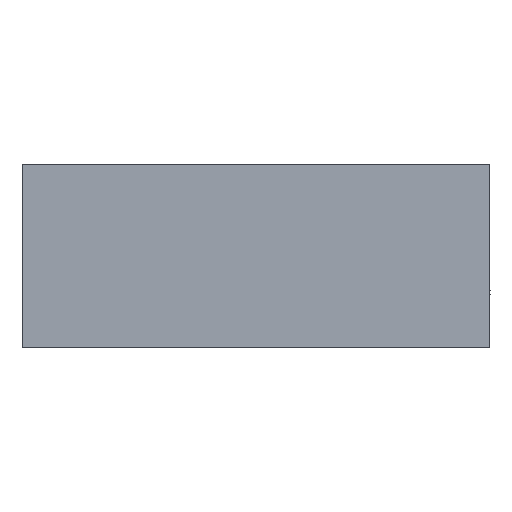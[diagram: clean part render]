
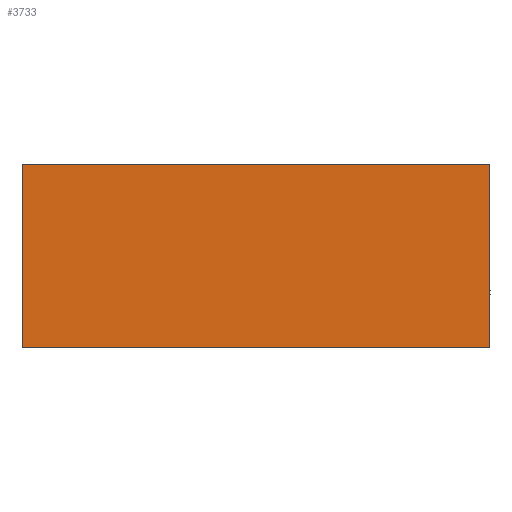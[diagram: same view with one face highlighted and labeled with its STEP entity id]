
A CAD part, left-side view. The second image highlights one B-rep face of the part: STEP entity #3733.
In plain terms, the highlighted planar face has unit normal (-1, 0, 0).
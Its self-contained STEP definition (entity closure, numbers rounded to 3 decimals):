
#391=LINE('',#6432,#727);
#479=LINE('',#6806,#815);
#485=LINE('',#6832,#821);
#487=LINE('',#6835,#823);
#727=VECTOR('',#4400,9.8);
#815=VECTOR('',#4734,25.);
#821=VECTOR('',#4750,9.8);
#823=VECTOR('',#4754,25.);
#1027=PLANE('',#4042);
#1159=FACE_OUTER_BOUND('',#1372,.T.);
#1372=EDGE_LOOP('',(#2952,#2953,#2954,#2955));
#1649=VERTEX_POINT('',#6429);
#1650=VERTEX_POINT('',#6431);
#1772=VERTEX_POINT('',#6805);
#1779=VERTEX_POINT('',#6831);
#2047=EDGE_CURVE('',#1649,#1650,#391,.T.);
#2213=EDGE_CURVE('',#1772,#1650,#479,.T.);
#2223=EDGE_CURVE('',#1779,#1772,#485,.T.);
#2225=EDGE_CURVE('',#1779,#1649,#487,.T.);
#2952=ORIENTED_EDGE('',*,*,#2047,.F.);
#2953=ORIENTED_EDGE('',*,*,#2225,.F.);
#2954=ORIENTED_EDGE('',*,*,#2223,.T.);
#2955=ORIENTED_EDGE('',*,*,#2213,.T.);
#3733=ADVANCED_FACE('',(#1159),#1027,.T.);
#4042=AXIS2_PLACEMENT_3D('',#6834,#4752,#4753);
#4400=DIRECTION('',(0.,0.,-1.));
#4734=DIRECTION('',(0.,-1.,0.));
#4750=DIRECTION('',(0.,0.,-1.));
#4752=DIRECTION('center_axis',(-1.,0.,0.));
#4753=DIRECTION('ref_axis',(0.,0.,1.));
#4754=DIRECTION('',(0.,-1.,0.));
#6429=CARTESIAN_POINT('',(-45.,0.,0.446));
#6431=CARTESIAN_POINT('',(-45.,0.,-9.354));
#6432=CARTESIAN_POINT('',(-45.,0.,0.446));
#6805=CARTESIAN_POINT('',(-45.,25.,-9.354));
#6806=CARTESIAN_POINT('',(-45.,25.,-9.354));
#6831=CARTESIAN_POINT('',(-45.,25.,0.446));
#6832=CARTESIAN_POINT('',(-45.,25.,0.446));
#6834=CARTESIAN_POINT('Origin',(-45.,0.,-0.154));
#6835=CARTESIAN_POINT('',(-45.,25.,0.446));
